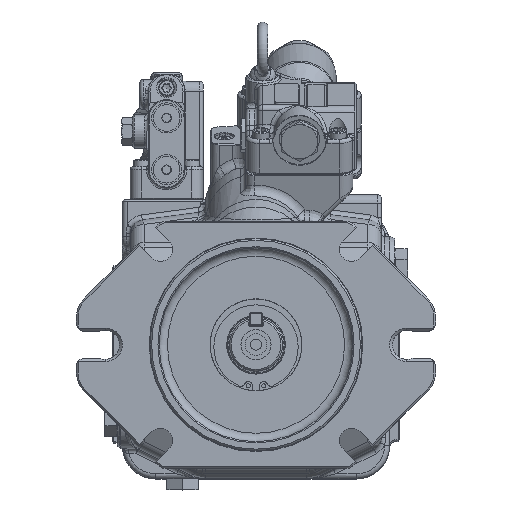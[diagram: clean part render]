
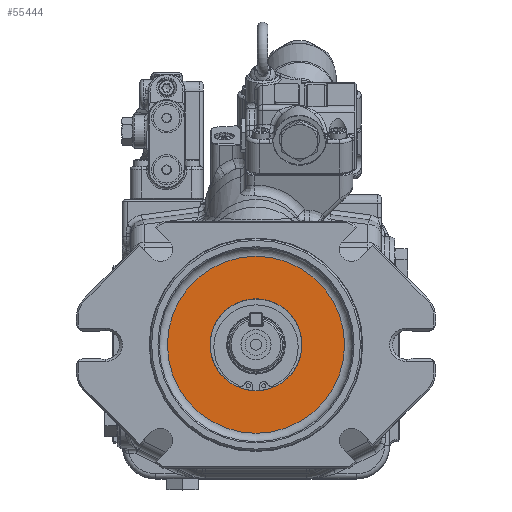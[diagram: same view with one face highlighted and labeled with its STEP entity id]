
A CAD part, top view. The second image highlights one B-rep face of the part: STEP entity #55444.
In plain terms, the highlighted planar face has unit normal (0, 0, 1).
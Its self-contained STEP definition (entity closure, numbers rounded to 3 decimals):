
#1169=FACE_BOUND('',#11736,.T.);
#2393=PLANE('',#60465);
#4981=CIRCLE('',#60223,27.5);
#5075=CIRCLE('',#60461,53.);
#8239=FACE_OUTER_BOUND('',#11735,.T.);
#11735=EDGE_LOOP('',(#48558));
#11736=EDGE_LOOP('',(#48559));
#25964=VERTEX_POINT('',#106817);
#26255=VERTEX_POINT('',#108092);
#33443=EDGE_CURVE('',#25964,#25964,#4981,.T.);
#33830=EDGE_CURVE('',#26255,#26255,#5075,.T.);
#48558=ORIENTED_EDGE('',*,*,#33830,.F.);
#48559=ORIENTED_EDGE('',*,*,#33443,.T.);
#55444=ADVANCED_FACE('',(#8239,#1169),#2393,.F.);
#60223=AXIS2_PLACEMENT_3D('',#106819,#73030,#73031);
#60461=AXIS2_PLACEMENT_3D('',#108094,#73694,#73695);
#60465=AXIS2_PLACEMENT_3D('',#108100,#73703,#73704);
#73030=DIRECTION('center_axis',(0.,0.,-1.));
#73031=DIRECTION('ref_axis',(0.,1.,0.));
#73694=DIRECTION('center_axis',(0.,0.,-1.));
#73695=DIRECTION('ref_axis',(-1.,0.,0.));
#73703=DIRECTION('center_axis',(0.,0.,-1.));
#73704=DIRECTION('ref_axis',(0.,1.,0.));
#106817=CARTESIAN_POINT('',(21.896,-54.144,131.15));
#106819=CARTESIAN_POINT('Origin',(21.896,-26.644,131.15));
#108092=CARTESIAN_POINT('',(21.896,26.356,131.15));
#108094=CARTESIAN_POINT('Origin',(21.896,-26.644,131.15));
#108100=CARTESIAN_POINT('Origin',(21.896,-26.644,131.15));
